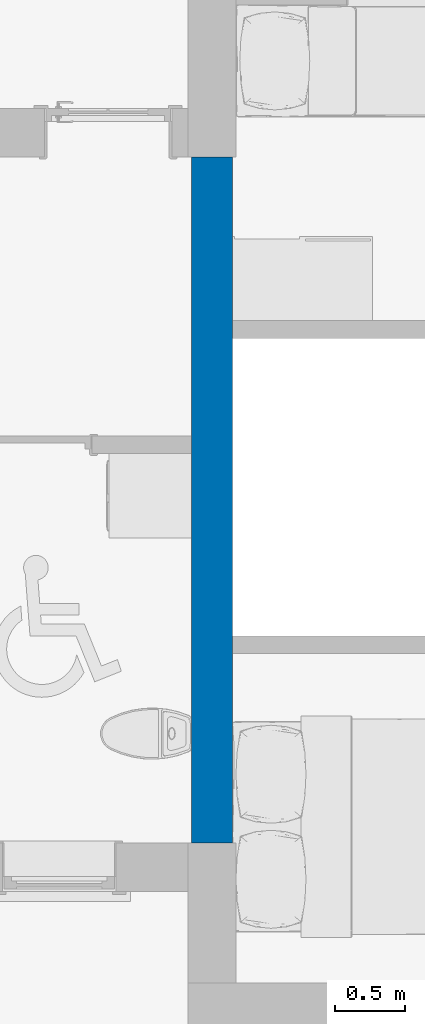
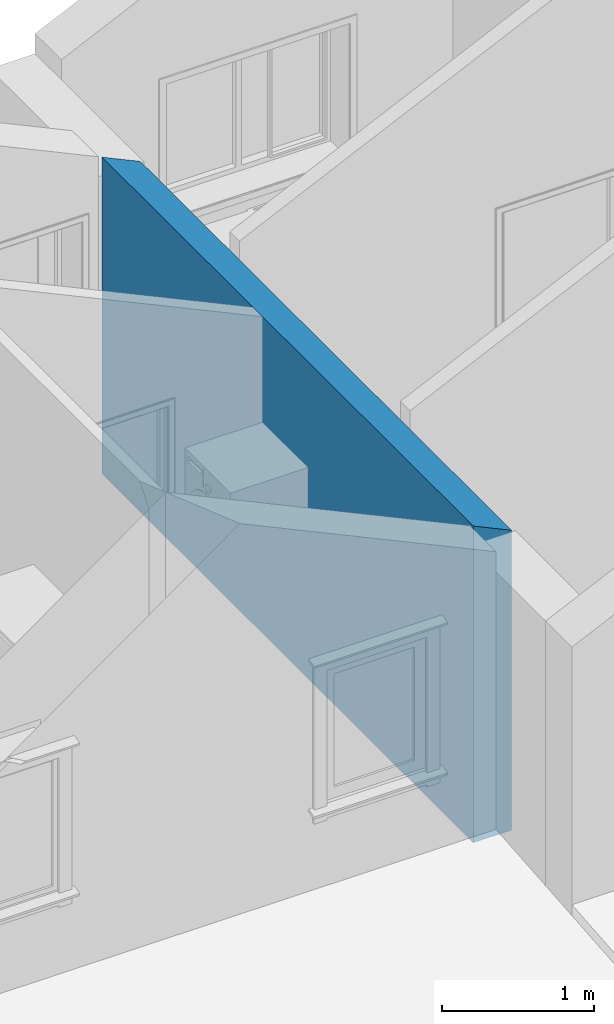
# One storey, part 23 of 44: 1 wall.
"""IFC2X3 building model written with IfcOpenShell, lengths in millimetres."""

from ifc_helpers import new_model, entity, si_unit, converted_unit, direction, frame, frame_2d, origin, place, context, subcontext, project, spatial, polyline, rectangle, extrude, clip, bounded_halfspace, material, layer, layer_set, layer_usage, type_object, element, save


model = new_model("IFC2X3")

# Units and contexts
model_context = context("Model", 3, precision=0.01, world=origin(), true_north=direction((0.0, 1.0)))
body_context = subcontext(model_context, "Body", "Model", "MODEL_VIEW")
ifc_project = project(units=[si_unit("LENGTHUNIT", "METRE", prefix="MILLI"), si_unit("AREAUNIT", "SQUARE_METRE"), si_unit("VOLUMEUNIT", "CUBIC_METRE"), converted_unit("PLANEANGLEUNIT", "DEGREE", entity("IfcPlaneAngleMeasure", 0.017453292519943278), si_unit("PLANEANGLEUNIT", "RADIAN"), dimensions=[0, 0, 0, 0, 0, 0, 0])], contexts=[model_context])

# Site, building, storey
site_placement = place(None, origin())
site = spatial("IfcSite", under=ifc_project, at=site_placement, Name="Default", CompositionType="ELEMENT")
building_placement = place(site_placement, origin())
building = spatial("IfcBuilding", under=site, at=building_placement, CompositionType="ELEMENT")
storey_placement = place(building_placement, frame((0.0, 0.0, 2681.0)))
storey = spatial("IfcBuildingStorey", under=building, at=storey_placement, Name="Et. 2", CompositionType="ELEMENT", Elevation=2681.0)

# Wall
ifc_material_1 = material(Name="Vegg - Gips - Innvendig - Hvit")
ifc_layer_1 = layer(ifc_material_1, 13.000000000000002)
ifc_layer_2 = layer(ifc_material_1, 13.000000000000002)
ifc_material_2 = material(Name="Vegg - Stender - Isolert")
ifc_layer_3 = layer(ifc_material_2, 100.0)
ifc_material_3 = material(Name="Vegg - Luftsjikt")
ifc_layer_4 = layer(ifc_material_3, 40.0)
ifc_layer_5 = layer(ifc_material_2, 100.0)
ifc_layer_6 = layer(ifc_material_1, 13.000000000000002)
ifc_layer_7 = layer(ifc_material_1, 13.000000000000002)
ifc_layer_set = layer_set([ifc_layer_1, ifc_layer_2, ifc_layer_3, ifc_layer_4, ifc_layer_5, ifc_layer_6, ifc_layer_7], Name="Basic Wall:24-GSISIG-26_100_40_100_26")
ifc_layer_usage = layer_usage(ifc_layer_set, "AXIS2", "NEGATIVE", 146.00000000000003)
wall_type = type_object("IfcWallType", Name="Basic Wall:24-GSISIG-26_100_40_100_26", PredefinedType="STANDARD", material=ifc_layer_set)
wall_placement = place(storey_placement, frame((28178.009586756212, 9754.180957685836, 0.0), z_axis=(0.0, 0.0, 1.0), x_axis=(0.0, 1.0, 0.0)))
element("IfcWallStandardCase", 1, at=wall_placement, inside=storey, type_object=wall_type, material=ifc_layer_usage, Name="Basic Wall:24-GSISIG-26_100_40_100_26", context=body_context, shape_type="Clipping", body=[
    clip(extrude(rectangle(XDim=4895.000000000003, YDim=292.00000000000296, at=frame_2d((2447.5000000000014, -5.115907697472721e-13), x_axis=(-1.0, 0.0))), origin(), (0.0, 0.0, 1.0), 2548.752142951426), bounded_halfspace(frame((0.0, -146.0, 2412.5903067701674), z_axis=(0.0, -0.42261826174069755, 0.9063077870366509), x_axis=(1.0, 0.0, 0.0)), False, frame((0.0, -146.0, 2412.5903067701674)), polyline([(0.0, 0.0), (4895.0, 0.0), (4895.0, 292.0), (2903.8777614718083, 292.0), (2777.8777614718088, 292.0), (0.0, 292.0), (0.0, 0.0)]))),
])

save(model, "model.ifc")
